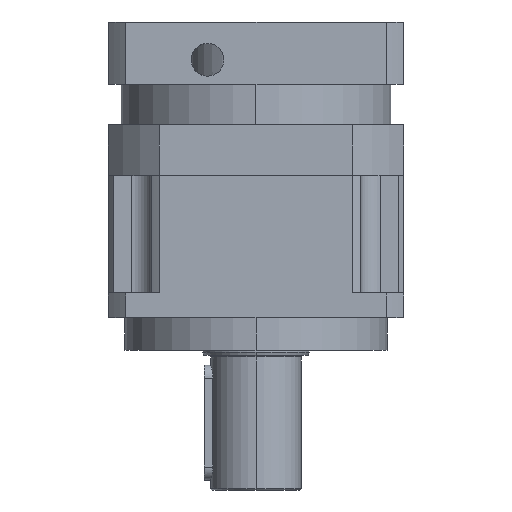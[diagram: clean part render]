
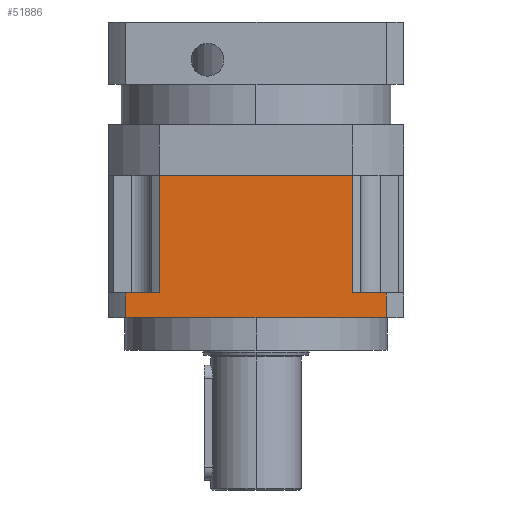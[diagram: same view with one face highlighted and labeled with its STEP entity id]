
A CAD part, left-side view. The second image highlights one B-rep face of the part: STEP entity #51886.
In plain terms, the highlighted planar face has unit normal (-1, 0, 0).
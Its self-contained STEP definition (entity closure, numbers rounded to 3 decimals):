
#705 = ORIENTED_EDGE ( 'NONE', *, *, #23095, .T. ) ;
#1131 = EDGE_CURVE ( 'NONE', #21449, #12742, #52485, .T. ) ;
#2342 = DIRECTION ( 'NONE',  ( 1., 0., 0. ) ) ;
#2710 = LINE ( 'NONE', #11639, #24952 ) ;
#4010 = CARTESIAN_POINT ( 'NONE',  ( 87.445, -44.829, -45.239 ) ) ;
#5869 = ORIENTED_EDGE ( 'NONE', *, *, #38973, .T. ) ;
#6719 = DIRECTION ( 'NONE',  ( 0., 1., 0. ) ) ;
#8091 = LINE ( 'NONE', #37361, #25211 ) ;
#9442 = CARTESIAN_POINT ( 'NONE',  ( 87.445, 93.333, -60.239 ) ) ;
#10547 = CARTESIAN_POINT ( 'NONE',  ( 87.445, 72.751, 26.261 ) ) ;
#10565 = ORIENTED_EDGE ( 'NONE', *, *, #40219, .F. ) ;
#11639 = CARTESIAN_POINT ( 'NONE',  ( 87.445, 93.333, -45.239 ) ) ;
#11944 = ORIENTED_EDGE ( 'NONE', *, *, #47581, .T. ) ;
#12292 = VERTEX_POINT ( 'NONE', #54070 ) ;
#12742 = VERTEX_POINT ( 'NONE', #4010 ) ;
#12950 = ORIENTED_EDGE ( 'NONE', *, *, #54905, .F. ) ;
#14498 = VECTOR ( 'NONE', #53725, 1000. ) ;
#16327 = LINE ( 'NONE', #33330, #46297 ) ;
#16707 = DIRECTION ( 'NONE',  ( 0., 0., 1. ) ) ;
#16786 = VERTEX_POINT ( 'NONE', #10547 ) ;
#18011 = VERTEX_POINT ( 'NONE', #39257 ) ;
#18413 = ORIENTED_EDGE ( 'NONE', *, *, #1131, .T. ) ;
#18568 = CARTESIAN_POINT ( 'NONE',  ( 87.445, 93.333, -60.239 ) ) ;
#19100 = DIRECTION ( 'NONE',  ( 0., 1., 0. ) ) ;
#19763 = VECTOR ( 'NONE', #46078, 1000. ) ;
#21449 = VERTEX_POINT ( 'NONE', #47427 ) ;
#21924 = FACE_OUTER_BOUND ( 'NONE', #48042, .T. ) ;
#23095 = EDGE_CURVE ( 'NONE', #16786, #47807, #16327, .T. ) ;
#23251 = DIRECTION ( 'NONE',  ( 0., 0., -1. ) ) ;
#23309 = LINE ( 'NONE', #18568, #33867 ) ;
#24066 = CARTESIAN_POINT ( 'NONE',  ( 87.445, 72.751, 26.261 ) ) ;
#24150 = CARTESIAN_POINT ( 'NONE',  ( 87.445, -65.412, -60.239 ) ) ;
#24744 = DIRECTION ( 'NONE',  ( 0., 1., 0. ) ) ;
#24952 = VECTOR ( 'NONE', #24744, 1000. ) ;
#25211 = VECTOR ( 'NONE', #23251, 1000. ) ;
#27383 = CARTESIAN_POINT ( 'NONE',  ( 87.445, 93.333, -45.239 ) ) ;
#27428 = VERTEX_POINT ( 'NONE', #45657 ) ;
#29068 = ORIENTED_EDGE ( 'NONE', *, *, #47009, .F. ) ;
#29316 = CARTESIAN_POINT ( 'NONE',  ( 87.445, 72.751, -45.239 ) ) ;
#33330 = CARTESIAN_POINT ( 'NONE',  ( 87.445, 72.751, 26.261 ) ) ;
#33602 = DIRECTION ( 'NONE',  ( 0., 0., -1. ) ) ;
#33867 = VECTOR ( 'NONE', #44778, 1000. ) ;
#36889 = LINE ( 'NONE', #24066, #19763 ) ;
#37361 = CARTESIAN_POINT ( 'NONE',  ( 87.445, -44.829, 26.261 ) ) ;
#38973 = EDGE_CURVE ( 'NONE', #12292, #21449, #40879, .T. ) ;
#39257 = CARTESIAN_POINT ( 'NONE',  ( 87.445, -44.829, 26.261 ) ) ;
#39270 = VERTEX_POINT ( 'NONE', #46306 ) ;
#39490 = PLANE ( 'NONE',  #53330 ) ;
#40026 = CARTESIAN_POINT ( 'NONE',  ( 87.445, 72.751, 26.261 ) ) ;
#40219 = EDGE_CURVE ( 'NONE', #18011, #12742, #8091, .T. ) ;
#40879 = LINE ( 'NONE', #24150, #14498 ) ;
#42650 = LINE ( 'NONE', #9442, #52662 ) ;
#44778 = DIRECTION ( 'NONE',  ( 0., 1., 0. ) ) ;
#45657 = CARTESIAN_POINT ( 'NONE',  ( 87.445, 93.333, -45.239 ) ) ;
#45667 = VECTOR ( 'NONE', #6719, 1000. ) ;
#46078 = DIRECTION ( 'NONE',  ( 0., -1., 0. ) ) ;
#46297 = VECTOR ( 'NONE', #33602, 1000. ) ;
#46306 = CARTESIAN_POINT ( 'NONE',  ( 87.445, 93.333, -60.239 ) ) ;
#47009 = EDGE_CURVE ( 'NONE', #12292, #39270, #23309, .T. ) ;
#47427 = CARTESIAN_POINT ( 'NONE',  ( 87.445, -65.412, -45.239 ) ) ;
#47581 = EDGE_CURVE ( 'NONE', #47807, #27428, #2710, .T. ) ;
#47807 = VERTEX_POINT ( 'NONE', #29316 ) ;
#48042 = EDGE_LOOP ( 'NONE', ( #705, #11944, #52683, #29068, #5869, #18413, #10565, #12950 ) ) ;
#51886 = ADVANCED_FACE ( 'NONE', ( #21924 ), #39490, .F. ) ;
#52485 = LINE ( 'NONE', #27383, #45667 ) ;
#52662 = VECTOR ( 'NONE', #16707, 1000. ) ;
#52683 = ORIENTED_EDGE ( 'NONE', *, *, #53732, .F. ) ;
#53330 = AXIS2_PLACEMENT_3D ( 'NONE', #40026, #2342, #19100 ) ;
#53725 = DIRECTION ( 'NONE',  ( 0., 0., 1. ) ) ;
#53732 = EDGE_CURVE ( 'NONE', #39270, #27428, #42650, .T. ) ;
#54070 = CARTESIAN_POINT ( 'NONE',  ( 87.445, -65.412, -60.239 ) ) ;
#54905 = EDGE_CURVE ( 'NONE', #16786, #18011, #36889, .T. ) ;
